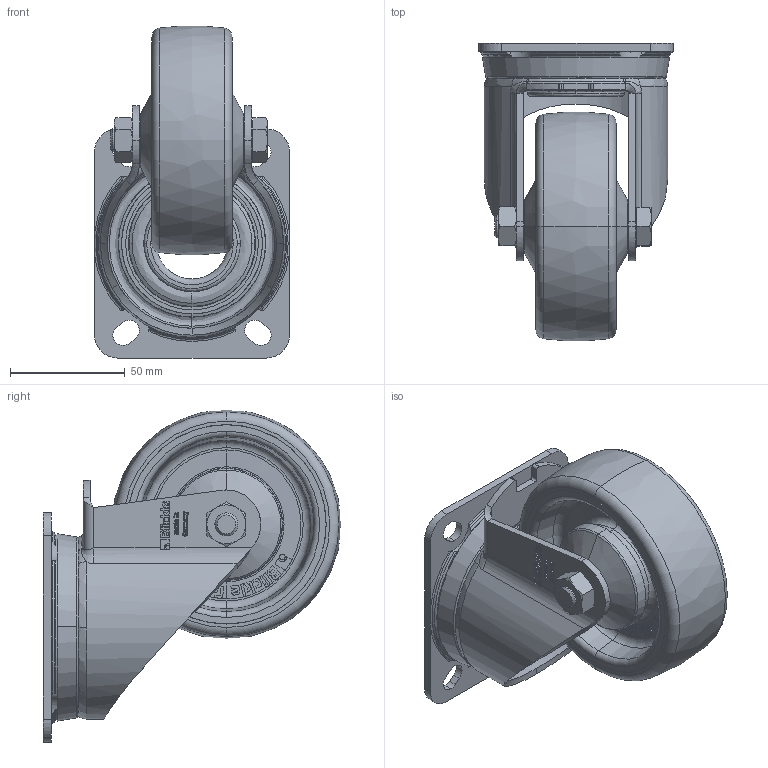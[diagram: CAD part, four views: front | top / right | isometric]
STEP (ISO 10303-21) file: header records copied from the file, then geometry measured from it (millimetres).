
FILE_DESCRIPTION (( 'STEP AP214' ), '1' );
FILE_NAME ('LK-POTH_100K-1_276774-214.step', '2022-01-11T13:34:06', ( '' ), ( '' ), 'SwSTEP 2.0', 'SolidWorks 2018', '' );
FILE_SCHEMA (( 'AUTOMOTIVE_DESIGN' ));
Length unit declared in the file: millimetre
Products named in the file (5): POTH_3D_G16_POTH_100_10K_253609; GH-LK_80-100_GH-LK-100x45-01_10x46; GH-LK-100x45-01_10x46_G16_3D; LK-POTH_100K-1_276774-214; POTH_100_10K_G16_3D
Assembly tree (4 placements, depth 3):
  LK-POTH_100K-1_276774-214
    GH-LK_80-100_GH-LK-100x45-01_10x46
      GH-LK-100x45-01_10x46_G16_3D
    POTH_3D_G16_POTH_100_10K_253609
      POTH_100_10K_G16_3D
Bounding box: 85 x 129.89 x 144.89 mm (x, y, z)
Volume: 283206.3 mm3; surface area: 104971.5 mm2
Topology: 2 solids, 6 shells, 2032 faces, 5467 edges, 3570 vertices
Faces by surface type: bspline 839, plane 823, cone 159, cylinder 149, torus 62
Entity records: 79957 total; most frequent: CARTESIAN_POINT 34595, ORIENTED_EDGE 10930, DIRECTION 6467, EDGE_CURVE 5465, VERTEX_POINT 3570, VECTOR 2531, LINE 2531, EDGE_LOOP 2179
